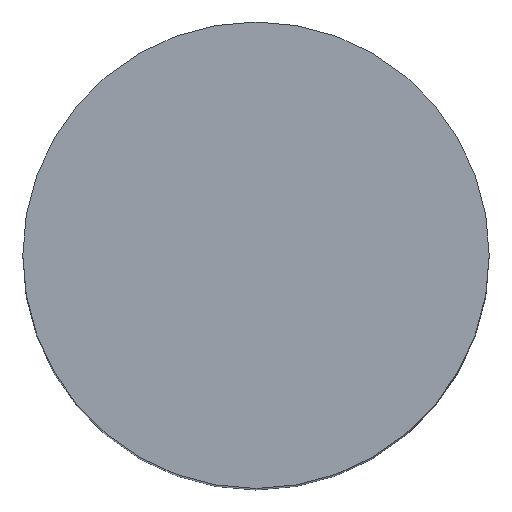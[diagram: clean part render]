
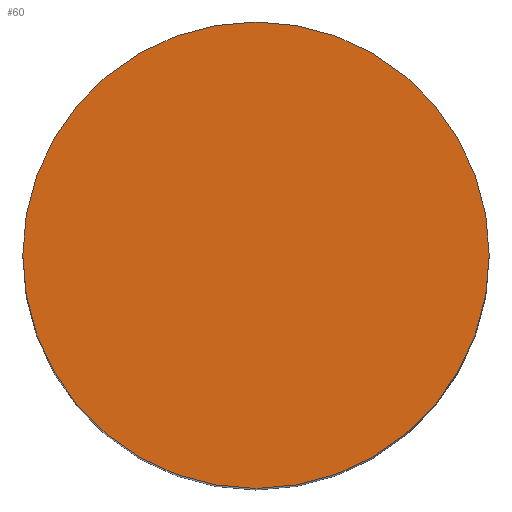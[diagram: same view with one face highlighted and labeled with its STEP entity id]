
A CAD part, top view. The second image highlights one B-rep face of the part: STEP entity #60.
In plain terms, the highlighted planar face has unit normal (0, 0, 1).
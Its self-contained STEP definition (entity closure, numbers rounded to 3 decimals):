
#3 = DIRECTION ( 'NONE',  ( 1., 0., 0. ) ) ;
#9 = FACE_OUTER_BOUND ( 'NONE', #88, .T. ) ;
#14 = CIRCLE ( 'NONE', #130, 37.5 ) ;
#21 = VERTEX_POINT ( 'NONE', #138 ) ;
#23 = AXIS2_PLACEMENT_3D ( 'NONE', #26, #78, #3 ) ;
#26 = CARTESIAN_POINT ( 'NONE',  ( 0., 0., 141. ) ) ;
#27 = DIRECTION ( 'NONE',  ( 0., 0., 1. ) ) ;
#33 = CARTESIAN_POINT ( 'NONE',  ( 0., 0., 141. ) ) ;
#34 = AXIS2_PLACEMENT_3D ( 'NONE', #33, #85, #112 ) ;
#37 = CARTESIAN_POINT ( 'NONE',  ( 0., 0., 141. ) ) ;
#42 = ORIENTED_EDGE ( 'NONE', *, *, #132, .T. ) ;
#58 = PLANE ( 'NONE',  #34 ) ;
#60 = ADVANCED_FACE ( 'NONE', ( #9 ), #58, .T. ) ;
#78 = DIRECTION ( 'NONE',  ( 0., 0., 1. ) ) ;
#85 = DIRECTION ( 'NONE',  ( 0., 0., 1. ) ) ;
#88 = EDGE_LOOP ( 'NONE', ( #42, #102 ) ) ;
#102 = ORIENTED_EDGE ( 'NONE', *, *, #108, .T. ) ;
#108 = EDGE_CURVE ( 'NONE', #122, #21, #14, .T. ) ;
#112 = DIRECTION ( 'NONE',  ( 1., 0., 0. ) ) ;
#118 = DIRECTION ( 'NONE',  ( 1., 0., 0. ) ) ;
#122 = VERTEX_POINT ( 'NONE', #150 ) ;
#130 = AXIS2_PLACEMENT_3D ( 'NONE', #37, #27, #118 ) ;
#132 = EDGE_CURVE ( 'NONE', #21, #122, #144, .T. ) ;
#138 = CARTESIAN_POINT ( 'NONE',  ( -37.5, 0., 141. ) ) ;
#144 = CIRCLE ( 'NONE', #23, 37.5 ) ;
#150 = CARTESIAN_POINT ( 'NONE',  ( 37.5, 0., 141. ) ) ;
